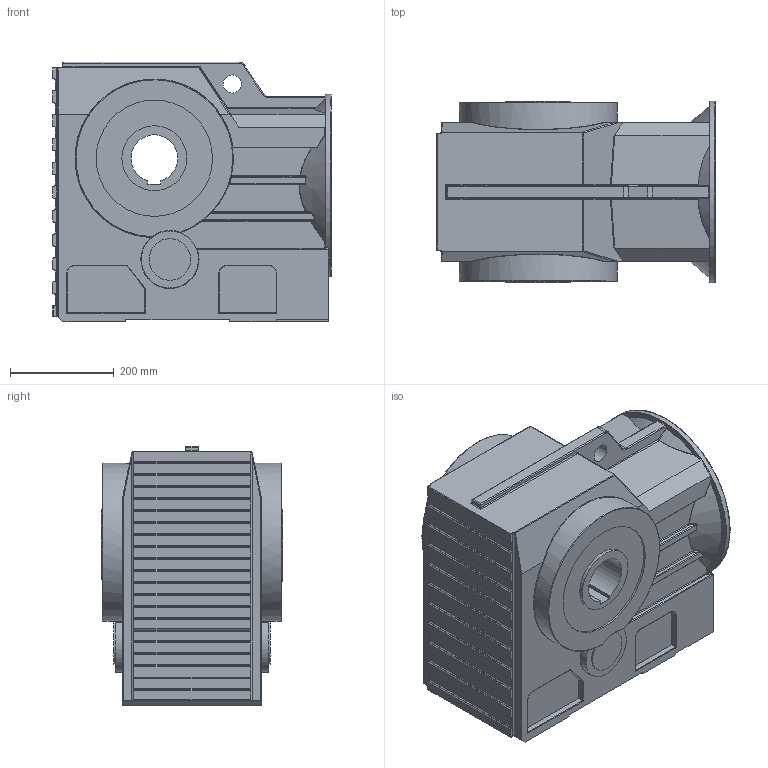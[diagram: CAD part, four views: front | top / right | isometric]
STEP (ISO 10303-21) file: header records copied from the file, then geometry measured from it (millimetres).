
FILE_DESCRIPTION((''),'2;1');
FILE_NAME('F:\PAWEŁ\ZLECENIA\2011 DualSystem\Przekładnie DK\001 Modele\DKAB100_\DK_100_STEP\DK_A_100.stp','2012-06-26T19:24:15',('admin'),(''),'Autodesk Inventor 2009','Autodesk Inventor 2009','');
FILE_SCHEMA(('AUTOMOTIVE_DESIGN { 1 0 10303 214 1 1 1 1 }'));
Length unit declared in the file: millimetre
Products named in the file (1): DK_A_100
Bounding box: 537 x 350 x 500 mm (x, y, z)
Volume: 66204918.3 mm3; surface area: 1310700.2 mm2
Topology: 1 solids, 1 shells, 547 faces, 1348 edges, 799 vertices
Faces by surface type: cylinder 214, bspline 130, plane 128, torus 63, sphere 8, cone 4
Full cylindrical faces by diameter (mm): 20.752 x4, 35 x1, 80 x1, 125 x1, 224 x1, 250 x1, 350 x1
Entity records: 21496 total; most frequent: CARTESIAN_POINT 9105, ORIENTED_EDGE 2626, DIRECTION 2522, EDGE_CURVE 1313, AXIS2_PLACEMENT_3D 987, VERTEX_POINT 798, EDGE_LOOP 581, VECTOR 548
